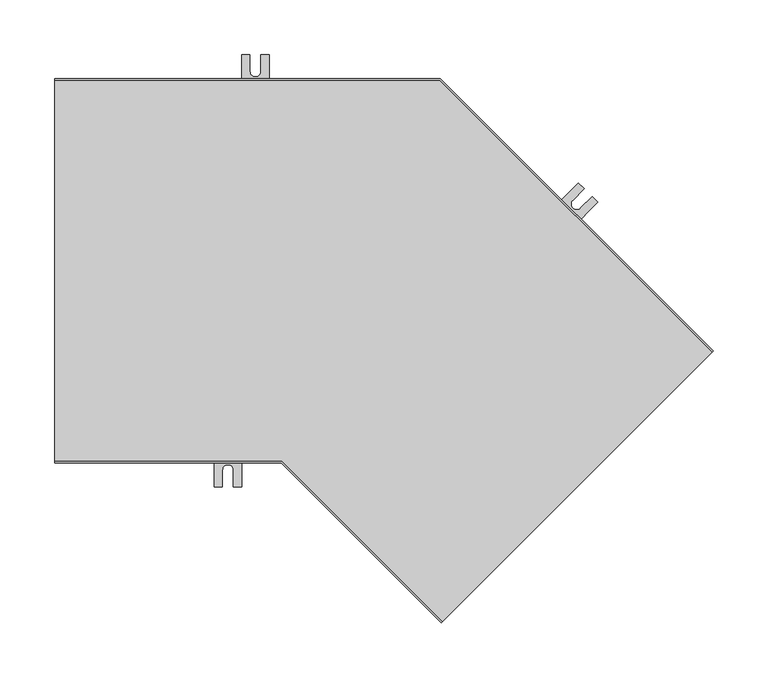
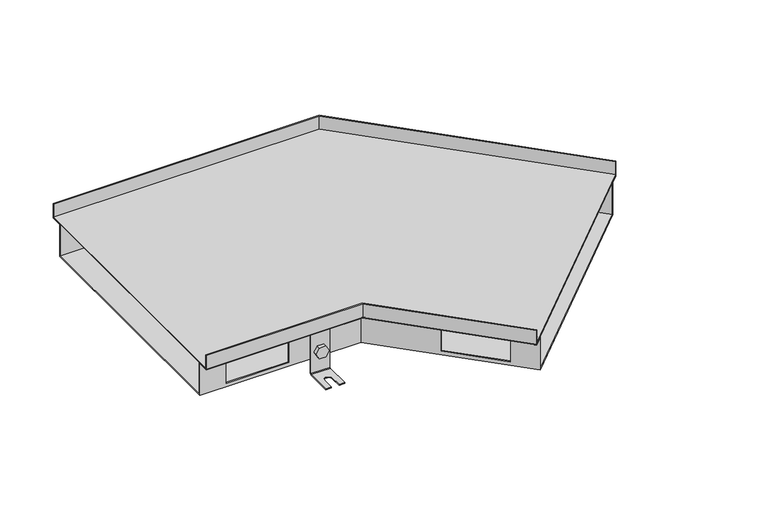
"""IFC4 building model written with IfcOpenShell, lengths in millimetres: proxy geometry, TECHNO_Угловой элемент_KVU : 350_065_135°."""

from ifc_helpers import new_model, si_unit, point, frame, frame_2d, origin, place, context, project, spatial, polyline, circle_curve, ellipse_curve, trimmed, segment, composite_curve, outline, extrude, source, transform, mapped, element, save
from ifc_brep_helpers import plane_surface, cylinder_surface, revolved_surface, advanced_brep


def mechanical_equipment_1f7193ec(model_context):
    return source(origin(), model_context, "Body", "SolidModel", [
        extrude(outline(composite_curve([segment(trimmed(circle_curve(frame_2d((0.0, -7.5000001)), 7.5), [point((0.0, -15.0))], [point((0.0, 0.0))], False, "CARTESIAN"), True, "CONTINUOUS"), segment(trimmed(circle_curve(frame_2d((0.0, -7.5000001)), 7.5), [point((0.0, 0.0))], [point((0.0, -15.0))], False, "CARTESIAN"), True, "CONTINUOUS")], self_intersect=False)), frame((424.1148412, -36.1420849, -55.5), z_axis=(0.7071067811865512, 0.7071067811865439, 0.0), x_axis=(0.0, 0.0, 1.0)), (0.0, 0.0, 1.0), 1.5),
        extrude(outline(polyline([(0.0, 0.0), (8.660254, 0.0), (12.9903811, -7.5), (8.6602541, -15.0), (0.0, -15.0), (-4.330127, -7.5), (0.0, 0.0)])), frame((408.2330432, -29.1698324, -55.5), z_axis=(0.7071067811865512, 0.7071067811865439, 0.0), x_axis=(0.35355339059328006, -0.3535533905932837, -0.866025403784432)), (0.0, 0.0, 1.0), 5.1),
        advanced_brep(
        [(426.8018469, -40.5261469, -20.5), (426.8018469, -40.5261469, -83.5), (426.2361615, -41.0918323, -84.3), (402.9016377, -64.4263561, -84.3), (402.9016377, -64.4263561, -85.5), (426.2361615, -41.0918323, -85.5), (427.6503751, -39.6776188, -83.5), (427.6503751, -39.6776188, -20.5), (409.1241774, -22.8484774, -20.5), (409.9727056, -21.9999492, -20.5), (409.9727056, -21.9999492, -83.5), (408.558492, -23.4141628, -85.5), (385.2239682, -46.7486866, -85.5), (385.2239682, -46.7486866, -84.3), (408.558492, -23.4141628, -84.3), (409.1241774, -22.8484774, -83.5), (390.5272691, -52.0519874, -84.3), (401.1338708, -41.4453857, -84.3), (408.2049386, -48.5164535, -84.3), (397.5983369, -59.1230553, -84.3), (397.5983369, -59.1230553, -85.5), (390.5272691, -52.0519874, -85.5), (408.2049386, -48.5164535, -85.5), (401.1338708, -41.4453857, -85.5)],
        [
            (0, 1),
            (1, 2, circle_curve(frame((426.2361615, -41.0918323, -83.5), z_axis=(-0.7071067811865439, 0.7071067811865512, 0.0), x_axis=(-0.7071067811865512, -0.7071067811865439, 0.0)), 0.8)),
            (2, 3),
            (3, 4),
            (4, 5),
            (5, 6, circle_curve(frame((426.2361615, -41.0918323, -83.5), z_axis=(0.7071067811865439, -0.7071067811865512, 0.0), x_axis=(-0.7071067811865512, -0.7071067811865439, 0.0)), 2.0)),
            (6, 7),
            (7, 0),
            (8, 9),
            (9, 10),
            (10, 11, circle_curve(frame((408.558492, -23.4141628, -83.5), z_axis=(-0.7071067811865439, 0.7071067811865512, 0.0), x_axis=(-0.7071067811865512, -0.7071067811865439, 0.0)), 2.0)),
            (11, 12),
            (12, 13),
            (13, 14),
            (14, 15, circle_curve(frame((408.558492, -23.4141628, -83.5), z_axis=(0.7071067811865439, -0.7071067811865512, 0.0), x_axis=(-0.7071067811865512, -0.7071067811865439, 0.0)), 0.8)),
            (15, 8),
            (0, 8),
            (15, 1),
            (14, 2),
            (13, 16),
            (16, 17),
            (17, 18, circle_curve(frame((404.6694047, -44.9809196, -84.3), z_axis=(0.0, 0.0, -1.0), x_axis=(0.7071067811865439, -0.7071067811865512, 0.0)), 5.0)),
            (18, 19),
            (19, 3),
            (19, 20),
            (20, 4),
            (12, 21),
            (21, 16),
            (20, 22),
            (22, 23, circle_curve(frame((404.6694047, -44.9809196, -85.5), z_axis=(0.0, 0.0, 1.0), x_axis=(0.7071067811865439, -0.7071067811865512, 0.0)), 5.0)),
            (23, 21),
            (11, 5),
            (10, 6),
            (9, 7),
            (23, 17),
            (18, 22),
        ],
        [
            plane_surface(frame((426.8018469, -40.5261469, -20.5), z_axis=(0.7071067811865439, -0.7071067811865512, 0.0), x_axis=(0.0, 0.0, -1.0))),
            plane_surface(frame((409.1241774, -22.8484774, -20.5), z_axis=(-0.7071067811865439, 0.7071067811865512, 0.0), x_axis=(0.0, 0.0, 1.0))),
            plane_surface(frame((426.8018469, -40.5261469, -20.5), z_axis=(-0.7071067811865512, -0.7071067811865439, 0.0), x_axis=(-0.7071067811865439, 0.7071067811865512, 0.0))),
            revolved_surface(polyline([(407.99280657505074, -23.979848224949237, -83.5), (425.67047607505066, -41.65751772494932, -83.5)]), (408.558492, -23.4141628, -83.5), (-0.7071067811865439, 0.7071067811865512, 0.0)),
            plane_surface(frame((426.2361615, -41.0918323, -84.3), z_axis=(0.0, 0.0, 1.0), x_axis=(-0.7071067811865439, 0.7071067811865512, 0.0))),
            plane_surface(frame((402.9016377, -64.4263561, -84.3), z_axis=(-0.7071067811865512, -0.7071067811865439, 0.0), x_axis=(-0.7071067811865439, 0.7071067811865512, 0.0))),
            plane_surface(frame((402.9016377, -64.4263561, -85.5), z_axis=(0.0, 0.0, -1.0), x_axis=(-0.7071067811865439, 0.7071067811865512, 0.0))),
            cylinder_surface(frame((408.558492, -23.4141628, -83.5), z_axis=(0.7071067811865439, -0.7071067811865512, 0.0), x_axis=(-0.7071067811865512, -0.7071067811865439, 0.0)), 2.0),
            plane_surface(frame((427.6503751, -39.6776188, -83.5), z_axis=(0.7071067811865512, 0.7071067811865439, 0.0), x_axis=(-0.7071067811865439, 0.7071067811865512, 0.0))),
            plane_surface(frame((427.6503751, -39.6776188, -20.5), z_axis=(0.0, 0.0, 1.0), x_axis=(-0.7071067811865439, 0.7071067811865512, 0.0))),
            plane_surface(frame((401.1338708, -41.4453857, -84.3), z_axis=(0.7071067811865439, -0.7071067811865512, 0.0), x_axis=(0.0, 0.0, -1.0))),
            plane_surface(frame((397.5983369, -59.1230553, -84.3), z_axis=(-0.707106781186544, 0.7071067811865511, 0.0), x_axis=(0.0, 0.0, -1.0))),
            revolved_surface(polyline([(408.2049386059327, -48.51645350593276, -84.3), (408.2049386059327, -48.51645350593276, -85.5)]), (404.6694047, -44.9809196, -85.5), (0.0, 0.0, 1.0)),
        ],
        [
            (0, [[1, 2, 3, 4, 5, 6, 7, 8]]),
            (1, [[9, 10, 11, 12, 13, 14, 15, 16]]),
            (2, [[-1, 17, -16, 18]]),
            (3, [[-2, -18, -15, 19]]),
            (4, [[-3, -19, -14, 20, 21, 22, 23, 24]]),
            (5, [[-4, -24, 25, 26]]),
            (5, [[-13, 27, 28, -20]]),
            (6, [[-5, -26, 29, 30, 31, -27, -12, 32]]),
            (7, [[-6, -32, -11, 33]]),
            (8, [[-7, -33, -10, 34]]),
            (9, [[-8, -34, -9, -17]]),
            (10, [[35, -21, -28, -31]]),
            (11, [[36, -29, -25, -23]]),
            (12, [[-35, -30, -36, -22]]),
        ],
    ),
        extrude(outline(composite_curve([segment(trimmed(circle_curve(frame_2d((0.0, -7.5000001)), 7.5), [point((0.0, -15.0))], [point((0.0, 0.0))], False, "CARTESIAN"), True, "CONTINUOUS"), segment(trimmed(circle_curve(frame_2d((0.0, -7.5000001)), 7.5), [point((0.0, 0.0))], [point((0.0, -15.0))], False, "CARTESIAN"), True, "CONTINUOUS")], self_intersect=False)), frame((454.3790114, 50.6906279, -55.5), z_axis=(0.7071067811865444, 0.7071067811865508, 0.0), x_axis=(0.0, 0.0, -1.0)), (0.0, 0.0, 1.0), 1.5),
        extrude(outline(polyline([(0.0, 0.0), (4.3301271, -7.4999999), (0.0, -15.0), (-8.660254, -15.0), (-12.990381, -7.5), (-8.660254, 1e-07), (0.0, 0.0)])), frame((467.7152249, 41.172791, -55.5), z_axis=(0.7071067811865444, 0.7071067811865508, 0.0), x_axis=(0.3535533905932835, -0.3535533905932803, 0.866025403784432)), (0.0, 0.0, 1.0), 5.1),
        advanced_brep(
        [(452.7526658, 56.1353501, -20.5), (452.7526658, 56.1353501, -83.5), (453.3183512, 56.7010355, -84.3), (476.652875, 80.0355593, -84.3), (476.652875, 80.0355593, -85.5), (453.3183512, 56.7010355, -85.5), (451.9041377, 55.2868219, -83.5), (451.9041377, 55.2868219, -20.5), (470.4303353, 38.4576806, -20.5), (469.5818072, 37.6091524, -20.5), (469.5818072, 37.6091524, -83.5), (470.9960208, 39.023366, -85.5), (494.3305445, 62.3578898, -85.5), (494.3305445, 62.3578898, -84.3), (470.9960208, 39.023366, -84.3), (470.4303353, 38.4576806, -83.5), (489.0272437, 67.6611906, -84.3), (478.420642, 57.0545889, -84.3), (471.3495742, 64.1256567, -84.3), (481.9561759, 74.7322584, -84.3), (481.9561759, 74.7322584, -85.5), (489.0272437, 67.6611906, -85.5), (471.3495742, 64.1256567, -85.5), (478.420642, 57.0545889, -85.5)],
        [
            (0, 1),
            (1, 2, circle_curve(frame((453.3183512, 56.7010355, -83.5), z_axis=(0.7071067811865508, -0.7071067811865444, 0.0), x_axis=(0.7071067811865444, 0.7071067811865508, 0.0)), 0.8)),
            (2, 3),
            (3, 4),
            (4, 5),
            (5, 6, circle_curve(frame((453.3183512, 56.7010355, -83.5), z_axis=(-0.7071067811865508, 0.7071067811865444, 0.0), x_axis=(0.7071067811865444, 0.7071067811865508, 0.0)), 2.0)),
            (6, 7),
            (7, 0),
            (8, 9),
            (9, 10),
            (10, 11, circle_curve(frame((470.9960208, 39.023366, -83.5), z_axis=(0.7071067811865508, -0.7071067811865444, 0.0), x_axis=(0.7071067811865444, 0.7071067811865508, 0.0)), 2.0)),
            (11, 12),
            (12, 13),
            (13, 14),
            (14, 15, circle_curve(frame((470.9960208, 39.023366, -83.5), z_axis=(-0.7071067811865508, 0.7071067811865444, 0.0), x_axis=(0.7071067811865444, 0.7071067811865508, 0.0)), 0.8)),
            (15, 8),
            (0, 8),
            (15, 1),
            (14, 2),
            (13, 16),
            (16, 17),
            (17, 18, circle_curve(frame((474.8851081, 60.5901228, -84.3), z_axis=(0.0, 0.0, -1.0), x_axis=(-0.7071067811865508, 0.7071067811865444, 0.0)), 5.0)),
            (18, 19),
            (19, 3),
            (19, 20),
            (20, 4),
            (12, 21),
            (21, 16),
            (20, 22),
            (22, 23, circle_curve(frame((474.8851081, 60.5901228, -85.5), z_axis=(0.0, 0.0, 1.0), x_axis=(-0.7071067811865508, 0.7071067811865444, 0.0)), 5.0)),
            (23, 21),
            (11, 5),
            (10, 6),
            (9, 7),
            (23, 17),
            (18, 22),
        ],
        [
            plane_surface(frame((452.7526658, 56.1353501, -20.5), z_axis=(-0.7071067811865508, 0.7071067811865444, 0.0), x_axis=(0.0, 0.0, -1.0))),
            plane_surface(frame((470.4303353, 38.4576806, -20.5), z_axis=(0.7071067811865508, -0.7071067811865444, 0.0), x_axis=(0.0, 0.0, 1.0))),
            plane_surface(frame((452.7526658, 56.1353501, -20.5), z_axis=(0.7071067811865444, 0.7071067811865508, 0.0), x_axis=(0.7071067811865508, -0.7071067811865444, 0.0))),
            revolved_surface(polyline([(471.5617062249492, 39.58905142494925, -83.5), (453.88403667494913, 57.266720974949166, -83.5)]), (470.9960208, 39.023366, -83.5), (0.7071067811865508, -0.7071067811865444, 0.0)),
            plane_surface(frame((453.3183512, 56.7010355, -84.3), z_axis=(0.0, 0.0, 1.0000000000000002), x_axis=(0.7071067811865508, -0.7071067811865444, 0.0))),
            plane_surface(frame((476.652875, 80.0355593, -84.3), z_axis=(0.7071067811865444, 0.7071067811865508, 0.0), x_axis=(0.7071067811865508, -0.7071067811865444, 0.0))),
            plane_surface(frame((476.652875, 80.0355593, -85.5), z_axis=(0.0, 0.0, -1.0000000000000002), x_axis=(0.7071067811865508, -0.7071067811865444, 0.0))),
            cylinder_surface(frame((470.9960208, 39.023366, -83.5), z_axis=(-0.7071067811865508, 0.7071067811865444, 0.0), x_axis=(0.7071067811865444, 0.7071067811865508, 0.0)), 2.0),
            plane_surface(frame((451.9041377, 55.2868219, -83.5), z_axis=(-0.7071067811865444, -0.7071067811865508, 0.0), x_axis=(0.7071067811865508, -0.7071067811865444, 0.0))),
            plane_surface(frame((451.9041377, 55.2868219, -20.5), z_axis=(0.0, 0.0, 1.0000000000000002), x_axis=(0.7071067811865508, -0.7071067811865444, 0.0))),
            plane_surface(frame((478.420642, 57.0545889, -84.3), z_axis=(-0.7071067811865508, 0.7071067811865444, 0.0), x_axis=(0.0, 0.0, -1.0))),
            plane_surface(frame((481.9561759, 74.7322584, -84.3), z_axis=(0.7071067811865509, -0.7071067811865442, 0.0), x_axis=(0.0, 0.0, -1.0))),
            revolved_surface(polyline([(471.34957419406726, 64.12565670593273, -84.3), (471.34957419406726, 64.12565670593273, -85.5)]), (474.8851081, 60.5901228, -85.5), (0.0, 0.0, 1.0)),
        ],
        [
            (0, [[1, 2, 3, 4, 5, 6, 7, 8]]),
            (1, [[9, 10, 11, 12, 13, 14, 15, 16]]),
            (2, [[-1, 17, -16, 18]]),
            (3, [[-2, -18, -15, 19]]),
            (4, [[-3, -19, -14, 20, 21, 22, 23, 24]]),
            (5, [[-4, -24, 25, 26]]),
            (5, [[-13, 27, 28, -20]]),
            (6, [[-5, -26, 29, 30, 31, -27, -12, 32]]),
            (7, [[-6, -32, -11, 33]]),
            (8, [[-7, -33, -10, 34]]),
            (9, [[-8, -34, -9, -17]]),
            (10, [[35, -21, -28, -31]]),
            (11, [[36, -29, -25, -23]]),
            (12, [[-35, -30, -36, -22]]),
        ],
    ),
        extrude(outline(composite_curve([segment(trimmed(circle_curve(frame_2d((-55.5, 182.5)), 7.5), [point((-55.5, 175.0))], [point((-55.5, 190.0))], False, "CARTESIAN"), True, "CONTINUOUS"), segment(trimmed(circle_curve(frame_2d((-55.5, 182.5)), 7.5), [point((-55.5, 190.0))], [point((-55.5, 175.0))], False, "CARTESIAN"), True, "CONTINUOUS")], self_intersect=False)), frame((0.0, 160.2, 0.0), z_axis=(0.0, 1.0, 0.0), x_axis=(0.0, 0.0, 1.0)), (0.0, 0.0, 1.0), 1.5),
        extrude(outline(polyline([(-55.5, 173.839746), (-63.0, 178.169873), (-63.0, 186.830127), (-55.5, 191.160254), (-48.0, 186.830127), (-48.0, 178.169873), (-55.5, 173.839746)])), frame((0.0, 162.9, 0.0), z_axis=(0.0, 1.0, 0.0), x_axis=(0.0, 0.0, 1.0)), (0.0, 0.0, 1.0), 5.1),
        advanced_brep(
        [(195.0, 162.9, -20.5), (195.0, 161.7, -20.5), (195.0, 161.7, -83.5), (195.0, 163.7, -85.5), (195.0, 196.7, -85.5), (195.0, 196.7, -84.3), (195.0, 163.7, -84.3), (195.0, 162.9, -83.5), (170.0, 162.9, -20.5), (170.0, 162.9, -83.5), (170.0, 163.7, -84.3), (170.0, 196.7, -84.3), (170.0, 196.7, -85.5), (170.0, 163.7, -85.5), (170.0, 161.7, -83.5), (170.0, 161.7, -20.5), (187.5, 196.7, -84.3), (187.5, 181.7, -84.3), (177.5, 181.7, -84.3), (177.5, 196.7, -84.3), (177.5, 196.7, -85.5), (187.5, 196.7, -85.5), (177.5, 181.7, -85.5), (187.5, 181.7, -85.5)],
        [
            (0, 1),
            (1, 2),
            (2, 3, circle_curve(frame((195.0, 163.7, -83.5), z_axis=(1.0, 0.0, 0.0), x_axis=(0.0, 1.0, 0.0)), 2.0)),
            (3, 4),
            (4, 5),
            (5, 6),
            (6, 7, circle_curve(frame((195.0, 163.7, -83.5), z_axis=(-1.0, 0.0, 0.0), x_axis=(0.0, 1.0, 0.0)), 0.8)),
            (7, 0),
            (8, 9),
            (9, 10, circle_curve(frame((170.0, 163.7, -83.5), z_axis=(1.0, 0.0, 0.0), x_axis=(0.0, 1.0, 0.0)), 0.8)),
            (10, 11),
            (11, 12),
            (12, 13),
            (13, 14, circle_curve(frame((170.0, 163.7, -83.5), z_axis=(-1.0, 0.0, 0.0), x_axis=(0.0, 1.0, 0.0)), 2.0)),
            (14, 15),
            (15, 8),
            (7, 9),
            (8, 0),
            (6, 10),
            (5, 16),
            (16, 17),
            (17, 18, circle_curve(frame((182.5, 181.7, -84.3), z_axis=(0.0, 0.0, -1.0), x_axis=(1.0, 0.0, 0.0)), 5.0)),
            (18, 19),
            (19, 11),
            (19, 20),
            (20, 12),
            (4, 21),
            (21, 16),
            (3, 13),
            (20, 22),
            (22, 23, circle_curve(frame((182.5, 181.7, -85.5), z_axis=(0.0, 0.0, 1.0), x_axis=(1.0, 0.0, 0.0)), 5.0)),
            (23, 21),
            (2, 14),
            (1, 15),
            (18, 22),
            (23, 17),
        ],
        [
            plane_surface(frame((195.0, 162.9, -20.5), z_axis=(1.0, 0.0, 0.0), x_axis=(0.0, 0.0, -1.0))),
            plane_surface(frame((170.0, 162.9, -20.5), z_axis=(-1.0, 0.0, 0.0), x_axis=(0.0, 0.0, 1.0))),
            plane_surface(frame((195.0, 162.9, -20.5), z_axis=(0.0, 1.0, 0.0), x_axis=(-1.0, 0.0, 0.0))),
            revolved_surface(polyline([(170.0, 164.5, -83.5), (195.0, 164.5, -83.5)]), (170.0, 163.7, -83.5), (-1.0, 0.0, 0.0)),
            plane_surface(frame((195.0, 163.7, -84.3), z_axis=(0.0, 0.0, 1.0), x_axis=(-1.0, 0.0, 0.0))),
            plane_surface(frame((195.0, 196.7, -84.3), z_axis=(0.0, 1.0, 0.0), x_axis=(-1.0, 0.0, 0.0))),
            plane_surface(frame((195.0, 196.7, -85.5), z_axis=(0.0, 0.0, -1.0), x_axis=(-1.0, 0.0, 0.0))),
            cylinder_surface(frame((170.0, 163.7, -83.5), z_axis=(1.0, 0.0, 0.0), x_axis=(0.0, 1.0, 0.0)), 2.0),
            plane_surface(frame((195.0, 161.7, -83.5), z_axis=(0.0, -1.0, 0.0), x_axis=(-1.0, 0.0, 0.0))),
            plane_surface(frame((195.0, 161.7, -20.5), z_axis=(0.0, 0.0, 1.0), x_axis=(-1.0, 0.0, 0.0))),
            plane_surface(frame((177.5, 181.7, -84.3), z_axis=(1.0, 0.0, 0.0), x_axis=(0.0, 0.0, -1.0))),
            plane_surface(frame((187.5, 196.7, -84.3), z_axis=(-1.0, 0.0, 0.0), x_axis=(0.0, 0.0, -1.0))),
            revolved_surface(polyline([(187.5, 181.7, -84.3), (187.5, 181.7, -85.5)]), (182.5, 181.7, -85.5), (0.0, 0.0, 1.0)),
        ],
        [
            (0, [[1, 2, 3, 4, 5, 6, 7, 8]]),
            (1, [[9, 10, 11, 12, 13, 14, 15, 16]]),
            (2, [[17, -9, 18, -8]]),
            (3, [[19, -10, -17, -7]]),
            (4, [[20, 21, 22, 23, 24, -11, -19, -6]]),
            (5, [[-24, 25, 26, -12]]),
            (5, [[27, 28, -20, -5]]),
            (6, [[29, -13, -26, 30, 31, 32, -27, -4]]),
            (7, [[33, -14, -29, -3]]),
            (8, [[34, -15, -33, -2]]),
            (9, [[-18, -16, -34, -1]]),
            (10, [[-30, -25, -23, 35]]),
            (11, [[-21, -28, -32, 36]]),
            (12, [[-22, -36, -31, -35]]),
        ],
    ),
        extrude(outline(composite_curve([segment(trimmed(circle_curve(frame_2d((-55.5, 157.5)), 7.5), [point((-55.5, 150.0))], [point((-55.5, 165.0))], False, "CARTESIAN"), True, "CONTINUOUS"), segment(trimmed(circle_curve(frame_2d((-55.5, 157.5)), 7.5), [point((-55.5, 165.0))], [point((-55.5, 150.0))], False, "CARTESIAN"), True, "CONTINUOUS")], self_intersect=False)), frame((0.0, -161.7, 0.0), z_axis=(0.0, 1.0, 0.0), x_axis=(0.0, 0.0, 1.0)), (0.0, 0.0, 1.0), 1.5),
        extrude(outline(polyline([(-55.5, 148.839746), (-63.0, 153.169873), (-63.0, 161.830127), (-55.5, 166.160254), (-48.0, 161.830127), (-48.0, 153.169873), (-55.5, 148.839746)])), frame((0.0, -168.0, 0.0), z_axis=(0.0, 1.0, 0.0), x_axis=(0.0, 0.0, 1.0)), (0.0, 0.0, 1.0), 5.1),
        advanced_brep(
        [(170.0, -162.9, -20.5), (170.0, -162.9, -83.5), (170.0, -163.7, -84.3), (170.0, -196.7, -84.3), (170.0, -196.7, -85.5), (170.0, -163.7, -85.5), (170.0, -161.7, -83.5), (170.0, -161.7, -20.5), (145.0, -162.9, -20.5), (145.0, -161.7, -20.5), (145.0, -161.7, -83.5), (145.0, -163.7, -85.5), (145.0, -196.7, -85.5), (145.0, -196.7, -84.3), (145.0, -163.7, -84.3), (145.0, -162.9, -83.5), (152.5, -196.7, -84.3), (152.5, -181.7, -84.3), (162.5, -181.7, -84.3), (162.5, -196.7, -84.3), (162.5, -196.7, -85.5), (152.5, -196.7, -85.5), (162.5, -181.7, -85.5), (152.5, -181.7, -85.5)],
        [
            (0, 1),
            (1, 2, circle_curve(frame((170.0, -163.7, -83.5), z_axis=(-1.0, 0.0, 0.0), x_axis=(0.0, -1.0, 0.0)), 0.8)),
            (2, 3),
            (3, 4),
            (4, 5),
            (5, 6, circle_curve(frame((170.0, -163.7, -83.5), z_axis=(1.0, 0.0, 0.0), x_axis=(0.0, -1.0, 0.0)), 2.0)),
            (6, 7),
            (7, 0),
            (8, 9),
            (9, 10),
            (10, 11, circle_curve(frame((145.0, -163.7, -83.5), z_axis=(-1.0, 0.0, 0.0), x_axis=(0.0, -1.0, 0.0)), 2.0)),
            (11, 12),
            (12, 13),
            (13, 14),
            (14, 15, circle_curve(frame((145.0, -163.7, -83.5), z_axis=(1.0, 0.0, 0.0), x_axis=(0.0, -1.0, 0.0)), 0.8)),
            (15, 8),
            (0, 8),
            (15, 1),
            (14, 2),
            (13, 16),
            (16, 17),
            (17, 18, circle_curve(frame((157.5, -181.7, -84.3), z_axis=(0.0, 0.0, -1.0), x_axis=(1.0, 0.0, 0.0)), 5.0)),
            (18, 19),
            (19, 3),
            (19, 20),
            (20, 4),
            (12, 21),
            (21, 16),
            (20, 22),
            (22, 23, circle_curve(frame((157.5, -181.7, -85.5), z_axis=(0.0, 0.0, 1.0), x_axis=(1.0, 0.0, 0.0)), 5.0)),
            (23, 21),
            (11, 5),
            (10, 6),
            (9, 7),
            (23, 17),
            (18, 22),
        ],
        [
            plane_surface(frame((170.0, -162.9, -20.5), z_axis=(1.0, 0.0, 0.0), x_axis=(0.0, 0.0, -1.0))),
            plane_surface(frame((145.0, -162.9, -20.5), z_axis=(-1.0, 0.0, 0.0), x_axis=(0.0, 0.0, 1.0))),
            plane_surface(frame((170.0, -162.9, -20.5), z_axis=(0.0, -1.0, 0.0), x_axis=(-1.0, 0.0, 0.0))),
            revolved_surface(polyline([(145.0, -164.5, -83.5), (170.0, -164.5, -83.5)]), (145.0, -163.7, -83.5), (-1.0, 0.0, 0.0)),
            plane_surface(frame((170.0, -163.7, -84.3), z_axis=(0.0, 0.0, 1.0), x_axis=(-1.0, 0.0, 0.0))),
            plane_surface(frame((170.0, -196.7, -84.3), z_axis=(0.0, -1.0, 0.0), x_axis=(-1.0, 0.0, 0.0))),
            plane_surface(frame((170.0, -196.7, -85.5), z_axis=(0.0, 0.0, -1.0), x_axis=(-1.0, 0.0, 0.0))),
            cylinder_surface(frame((145.0, -163.7, -83.5), z_axis=(1.0, 0.0, 0.0), x_axis=(0.0, -1.0, 0.0)), 2.0),
            plane_surface(frame((170.0, -161.7, -83.5), z_axis=(0.0, 1.0, 0.0), x_axis=(-1.0, 0.0, 0.0))),
            plane_surface(frame((170.0, -161.7, -20.5), z_axis=(0.0, 0.0, 1.0), x_axis=(-1.0, 0.0, 0.0))),
            plane_surface(frame((152.5, -181.7, -84.3), z_axis=(1.0, 0.0, 0.0), x_axis=(0.0, 0.0, -1.0))),
            plane_surface(frame((162.5, -196.7, -84.3), z_axis=(-1.0, 0.0, 0.0), x_axis=(0.0, 0.0, -1.0))),
            revolved_surface(polyline([(162.5, -181.7, -84.3), (162.5, -181.7, -85.5)]), (157.5, -181.7, -85.5), (0.0, 0.0, 1.0)),
        ],
        [
            (0, [[1, 2, 3, 4, 5, 6, 7, 8]]),
            (1, [[9, 10, 11, 12, 13, 14, 15, 16]]),
            (2, [[-1, 17, -16, 18]]),
            (3, [[-2, -18, -15, 19]]),
            (4, [[-3, -19, -14, 20, 21, 22, 23, 24]]),
            (5, [[-4, -24, 25, 26]]),
            (5, [[-13, 27, 28, -20]]),
            (6, [[-5, -26, 29, 30, 31, -27, -12, 32]]),
            (7, [[-6, -32, -11, 33]]),
            (8, [[-7, -33, -10, 34]]),
            (9, [[-8, -34, -9, -17]]),
            (10, [[35, -21, -28, -31]]),
            (11, [[36, -29, -25, -23]]),
            (12, [[-35, -30, -36, -22]]),
        ],
    ),
        extrude(outline(polyline([(598.3459521, -74.0430083), (352.5556349, -319.8333255), (206.5223094, -173.8), (0.0, -173.8), (0.0, 173.8), (350.5029437, 173.8), (598.3459521, -74.0430083)])), frame((0.0, 0.0, -19.3), z_axis=(0.0, 0.0, 1.0), x_axis=(1.0, 0.0, 0.0)), (0.0, 0.0, 1.0), 1.2),
        advanced_brep(
        [(351.7071068, -320.6818536, -19.3), (352.5556349, -319.8333255, -20.5), (362.1722871, -310.2166733, -20.5), (362.1722871, -310.2166733, -65.0), (588.7292998, -83.6596606, -65.0), (588.7292998, -83.6596606, -20.5), (598.3459521, -74.0430083, -20.5), (599.1944802, -73.1944802, -19.3), (599.1944802, -73.1944802, 0.0), (598.3459521, -74.0430083, 0.0), (598.3459521, -74.0430083, -19.3), (588.7292998, -83.6596606, -19.3), (587.8807717, -84.5081887, -20.5), (587.8807717, -84.5081887, -63.8), (363.0208153, -309.3681451, -63.8), (363.0208153, -309.3681451, -20.5), (362.1722871, -310.2166733, -19.3), (352.5556349, -319.8333255, -19.3), (352.5556349, -319.8333255, 0.0), (351.7071068, -320.6818536, 0.0), (0.0, -175.0, -19.3), (0.0, -175.0, 0.0), (0.0, -173.8, 0.0), (0.0, -173.8, -19.3), (0.0, -160.2, -19.3), (0.0, -159.0, -20.5), (0.0, -159.0, -63.8), (0.0, 159.0, -63.8), (0.0, 159.0, -20.5), (0.0, 160.2, -19.3), (0.0, 173.8, -19.3), (0.0, 173.8, 0.0), (0.0, 175.0, 0.0), (0.0, 175.0, -19.3), (0.0, 173.8, -20.5), (0.0, 160.2, -20.5), (0.0, 160.2, -65.0), (0.0, -160.2, -65.0), (0.0, -160.2, -20.5), (0.0, -173.8, -20.5), (206.5223094, -173.8, -20.5), (206.0252532, -175.0, -19.3), (206.5223094, -173.8, 0.0), (206.5223094, -173.8, -19.3), (212.1556139, -160.2, -65.0), (212.1556139, -160.2, -20.5), (35.0, -160.2, -28.0), (117.0, -160.2, -28.0), (117.0, -160.2, -60.0), (35.0, -160.2, -60.0), (212.6526702, -159.0, -20.5), (212.6526702, -159.0, -63.8), (117.0, -159.0, -28.0), (35.0, -159.0, -28.0), (35.0, -159.0, -60.0), (117.0, -159.0, -60.0), (212.1556139, -160.2, -19.3), (279.4407937, -227.4851799, -28.0), (337.4235498, -285.4679359, -28.0), (337.4235498, -285.4679359, -60.0), (279.4407937, -227.4851799, -60.0), (344.8696393, 160.2, -65.0), (344.372583, 159.0, -63.8), (338.2720779, -284.6194078, -28.0), (280.2893219, -226.6366517, -28.0), (280.2893219, -226.6366517, -60.0), (338.2720779, -284.6194078, -60.0), (206.0252532, -175.0, 0.0), (344.8696393, 160.2, -20.5), (563.9805625, -58.9109232, -28.0), (505.9978064, -0.9281672, -28.0), (505.9978064, -0.9281672, -60.0), (563.9805625, -58.9109232, -60.0), (350.5029437, 173.8, -20.5), (351.0, 175.0, -19.3), (351.0, 175.0, 0.0), (350.5029437, 173.8, 0.0), (350.5029437, 173.8, -19.3), (344.8696393, 160.2, -19.3), (344.372583, 159.0, -20.5), (505.1492783, -1.7766953, -28.0), (563.1320344, -59.7594514, -28.0), (563.1320344, -59.7594514, -60.0), (505.1492783, -1.7766953, -60.0), (117.0, 160.2, -28.0), (35.0, 160.2, -28.0), (35.0, 160.2, -60.0), (117.0, 160.2, -60.0), (35.0, 159.0, -28.0), (117.0, 159.0, -28.0), (117.0, 159.0, -60.0), (35.0, 159.0, -60.0)],
        [
            (0, 1, circle_curve(frame((352.5556349, -319.8333255, -19.3), z_axis=(0.707106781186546, -0.707106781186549, 0.0), x_axis=(-0.707106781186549, -0.707106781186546, 0.0)), 1.2)),
            (1, 2),
            (2, 3),
            (3, 4),
            (4, 5),
            (5, 6),
            (6, 7, circle_curve(frame((598.3459521, -74.0430083, -19.3), z_axis=(0.707106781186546, -0.707106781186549, 0.0), x_axis=(-0.707106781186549, -0.707106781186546, 0.0)), 1.2)),
            (7, 8),
            (8, 9),
            (9, 10),
            (10, 11),
            (11, 12, circle_curve(frame((588.7292998, -83.6596606, -20.5), z_axis=(0.707106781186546, -0.707106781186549, 0.0), x_axis=(-0.707106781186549, -0.707106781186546, 0.0)), 1.2)),
            (12, 13),
            (13, 14),
            (14, 15),
            (15, 16, circle_curve(frame((362.1722871, -310.2166733, -20.5), z_axis=(0.707106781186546, -0.707106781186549, 0.0), x_axis=(-0.707106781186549, -0.707106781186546, 0.0)), 1.2)),
            (16, 17),
            (17, 18),
            (18, 19),
            (19, 0),
            (20, 21),
            (21, 22),
            (22, 23),
            (23, 24),
            (24, 25, circle_curve(frame((0.0, -160.2, -20.5), z_axis=(-1.0, 0.0, 0.0), x_axis=(0.0, -1.0, 0.0)), 1.2)),
            (25, 26),
            (26, 27),
            (27, 28),
            (28, 29, circle_curve(frame((0.0, 160.2, -20.5), z_axis=(-1.0, 0.0, 0.0), x_axis=(0.0, -1.0, 0.0)), 1.2)),
            (29, 30),
            (30, 31),
            (31, 32),
            (32, 33),
            (33, 34, circle_curve(frame((0.0, 173.8, -19.3), z_axis=(-1.0, 0.0, 0.0), x_axis=(0.0, -1.0, 0.0)), 1.2)),
            (34, 35),
            (35, 36),
            (36, 37),
            (37, 38),
            (38, 39),
            (39, 20, circle_curve(frame((0.0, -173.8, -19.3), z_axis=(-1.0, 0.0, 0.0), x_axis=(0.0, -1.0, 0.0)), 1.2)),
            (39, 40),
            (40, 41, ellipse_curve(frame((206.5223094, -173.8, -19.3), z_axis=(-0.9238795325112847, 0.3826834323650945, 0.0), x_axis=(0.3826834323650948, 0.9238795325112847, 0.0)), 1.2988706, 1.2)),
            (41, 20),
            (22, 42),
            (42, 43),
            (43, 23),
            (37, 44),
            (44, 45),
            (45, 38),
            (46, 47),
            (47, 48),
            (48, 49),
            (49, 46),
            (25, 50),
            (50, 51),
            (51, 26),
            (52, 53),
            (53, 54),
            (54, 55),
            (55, 52),
            (24, 56),
            (56, 50, ellipse_curve(frame((212.1556139, -160.2, -20.5), z_axis=(-0.9238795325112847, 0.3826834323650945, 0.0), x_axis=(0.3826834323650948, 0.9238795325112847, 0.0)), 1.2988706, 1.2)),
            (0, 41),
            (40, 1),
            (45, 2),
            (44, 3),
            (57, 58),
            (58, 59),
            (59, 60),
            (60, 57),
            (36, 61),
            (61, 4),
            (13, 62),
            (62, 27),
            (51, 14),
            (50, 15),
            (63, 64),
            (64, 65),
            (65, 66),
            (66, 63),
            (56, 16),
            (43, 17),
            (42, 18),
            (21, 67),
            (67, 19),
            (61, 68),
            (68, 5),
            (69, 70),
            (70, 71),
            (71, 72),
            (72, 69),
            (68, 35),
            (34, 73),
            (73, 6),
            (73, 74, ellipse_curve(frame((350.5029437, 173.8, -19.3), z_axis=(0.9238795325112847, -0.3826834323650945, 0.0), x_axis=(-0.38268343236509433, -0.9238795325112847, 0.0)), 1.2988706, 1.2)),
            (74, 7),
            (74, 75),
            (75, 8),
            (75, 32),
            (31, 76),
            (76, 9),
            (76, 77),
            (77, 10),
            (77, 30),
            (29, 78),
            (78, 11),
            (78, 79, ellipse_curve(frame((344.8696393, 160.2, -20.5), z_axis=(0.9238795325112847, -0.3826834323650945, 0.0), x_axis=(-0.38268343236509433, -0.9238795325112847, 0.0)), 1.2988706, 1.2)),
            (79, 12),
            (79, 62),
            (80, 81),
            (81, 82),
            (82, 83),
            (83, 80),
            (84, 85),
            (85, 86),
            (86, 87),
            (87, 84),
            (33, 74),
            (28, 79),
            (88, 89),
            (89, 90),
            (90, 91),
            (91, 88),
            (41, 67),
            (46, 53),
            (52, 47),
            (88, 85),
            (84, 89),
            (49, 54),
            (91, 86),
            (48, 55),
            (90, 87),
            (57, 64),
            (63, 58),
            (80, 70),
            (69, 81),
            (66, 59),
            (72, 82),
            (65, 60),
            (71, 83),
        ],
        [
            plane_surface(frame((475.4507935, -196.9381669, 0.0), z_axis=(0.707106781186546, -0.707106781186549, 0.0), x_axis=(0.0, 0.0, 1.0))),
            plane_surface(frame((0.0, 0.0, 0.0), z_axis=(-1.0, 0.0, 0.0), x_axis=(0.0, 0.0, 1.0))),
            cylinder_surface(frame((278.5126266, -173.8, -19.3), z_axis=(1.0, 0.0, 0.0), x_axis=(0.0, -1.0, 0.0)), 1.2),
            plane_surface(frame((206.5223094, -173.8, -19.3), z_axis=(0.0, 1.0, 0.0), x_axis=(-1.0, 0.0, 0.0))),
            plane_surface(frame((212.1556139, -160.2, -20.5), z_axis=(0.0, -1.0, 0.0), x_axis=(-1.0, 0.0, 0.0))),
            plane_surface(frame((212.6526702, -159.0, -63.8), z_axis=(0.0, 1.0, 0.0), x_axis=(-1.0, 0.0, 0.0))),
            cylinder_surface(frame((278.5126266, -160.2, -20.5), z_axis=(1.0, 0.0, 0.0), x_axis=(0.0, -1.0, 0.0)), 1.2),
            cylinder_surface(frame((352.5556349, -319.8333255, -19.3), z_axis=(0.707106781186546, -0.707106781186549, 0.0), x_axis=(-0.707106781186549, -0.707106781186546, 0.0)), 1.2),
            plane_surface(frame((352.5556349, -319.8333255, -20.5), z_axis=(0.0, 0.0, -1.0), x_axis=(-0.7071067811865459, 0.7071067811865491, 0.0))),
            plane_surface(frame((362.1722871, -310.2166733, -20.5), z_axis=(-0.7071067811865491, -0.707106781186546, 0.0), x_axis=(-0.707106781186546, 0.7071067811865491, 0.0))),
            plane_surface(frame((362.1722871, -310.2166733, -65.0), z_axis=(0.0, 0.0, -1.0), x_axis=(-0.707106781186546, 0.7071067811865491, 0.0))),
            plane_surface(frame((587.8807717, -84.5081887, -63.8), z_axis=(0.0, 0.0, 1.0), x_axis=(-0.7071067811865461, 0.7071067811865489, 0.0))),
            plane_surface(frame((363.0208153, -309.3681451, -63.8), z_axis=(0.7071067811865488, 0.7071067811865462, 0.0), x_axis=(-0.7071067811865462, 0.7071067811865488, 0.0))),
            cylinder_surface(frame((362.1722871, -310.2166733, -20.5), z_axis=(0.707106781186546, -0.707106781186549, 0.0), x_axis=(-0.707106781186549, -0.707106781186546, 0.0)), 1.2),
            plane_surface(frame((362.1722871, -310.2166733, -19.3), z_axis=(0.0, 0.0, 1.0000000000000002), x_axis=(-0.7071067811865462, 0.7071067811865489, 0.0))),
            plane_surface(frame((352.5556349, -319.8333255, -19.3), z_axis=(0.7071067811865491, 0.707106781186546, 0.0), x_axis=(-0.707106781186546, 0.7071067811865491, 0.0))),
            plane_surface(frame((352.5556349, -319.8333255, 0.0), z_axis=(0.0, 0.0, 1.0), x_axis=(-0.707106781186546, 0.7071067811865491, 0.0))),
            plane_surface(frame((588.7292998, -83.6596606, -65.0), z_axis=(0.7071067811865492, 0.7071067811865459, 0.0), x_axis=(-0.7071067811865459, 0.7071067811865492, 0.0))),
            plane_surface(frame((588.7292998, -83.6596606, -20.5), z_axis=(0.0, 0.0, -1.0000000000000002), x_axis=(-0.7071067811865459, 0.7071067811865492, 0.0))),
            cylinder_surface(frame((598.3459521, -74.0430083, -19.3), z_axis=(0.707106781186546, -0.707106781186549, 0.0), x_axis=(-0.707106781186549, -0.707106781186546, 0.0)), 1.2),
            plane_surface(frame((599.1944802, -73.1944802, -19.3), z_axis=(0.7071067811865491, 0.707106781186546, 0.0), x_axis=(-0.707106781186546, 0.7071067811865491, 0.0))),
            plane_surface(frame((599.1944802, -73.1944802, 0.0), z_axis=(0.0, 0.0, 1.0000000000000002), x_axis=(-0.7071067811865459, 0.7071067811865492, 0.0))),
            plane_surface(frame((598.3459521, -74.0430083, 0.0), z_axis=(-0.7071067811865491, -0.707106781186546, 0.0), x_axis=(-0.707106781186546, 0.7071067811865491, 0.0))),
            plane_surface(frame((598.3459521, -74.0430083, -19.3), z_axis=(0.0, 0.0, 1.0000000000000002), x_axis=(-0.7071067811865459, 0.7071067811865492, 0.0))),
            cylinder_surface(frame((588.7292998, -83.6596606, -20.5), z_axis=(0.707106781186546, -0.707106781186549, 0.0), x_axis=(-0.707106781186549, -0.707106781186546, 0.0)), 1.2),
            plane_surface(frame((587.8807717, -84.5081887, -20.5), z_axis=(-0.7071067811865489, -0.7071067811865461, 0.0), x_axis=(-0.7071067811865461, 0.7071067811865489, 0.0))),
            plane_surface(frame((344.8696393, 160.2, -65.0), z_axis=(0.0, 1.0, 0.0), x_axis=(-1.0, 0.0, 0.0))),
            cylinder_surface(frame((278.5126266, 173.8, -19.3), z_axis=(1.0, 0.0, 0.0), x_axis=(0.0, -1.0, 0.0)), 1.2),
            plane_surface(frame((351.0, 175.0, -19.3), z_axis=(0.0, 1.0, 0.0), x_axis=(-1.0, 0.0, 0.0))),
            plane_surface(frame((350.5029437, 173.8, 0.0), z_axis=(0.0, -1.0, 0.0), x_axis=(-1.0, 0.0, 0.0))),
            cylinder_surface(frame((278.5126266, 160.2, -20.5), z_axis=(1.0, 0.0, 0.0), x_axis=(0.0, -1.0, 0.0)), 1.2),
            plane_surface(frame((344.372583, 159.0, -20.5), z_axis=(0.0, -1.0, 0.0), x_axis=(-1.0, 0.0, 0.0))),
            plane_surface(frame((206.0252532, -175.0, 0.0), z_axis=(0.0, -1.0, 0.0), x_axis=(-1.0, 0.0, 0.0))),
            plane_surface(frame((351.7071068, -320.6818536, 0.0), z_axis=(-0.707106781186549, -0.707106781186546, 0.0), x_axis=(-0.707106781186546, 0.707106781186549, 0.0))),
            plane_surface(frame((35.0, 175.0, -28.0), z_axis=(0.0, 0.0, -1.0), x_axis=(0.0, -1.0, 0.0))),
            plane_surface(frame((35.0, 175.0, -60.0), z_axis=(1.0, 0.0, 0.0), x_axis=(0.0, -1.0, 0.0))),
            plane_surface(frame((117.0, 175.0, -60.0), z_axis=(0.0, 0.0, 1.0), x_axis=(0.0, -1.0, 0.0))),
            plane_surface(frame((117.0, 175.0, -28.0), z_axis=(-1.0, 0.0, 0.0), x_axis=(0.0, -1.0, 0.0))),
            plane_surface(frame((516.4629868, 9.5370132, -28.0), z_axis=(0.0, 0.0, -1.0000000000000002), x_axis=(-0.7071067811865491, -0.7071067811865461, 0.0))),
            plane_surface(frame((574.4457429, -48.4457429, -28.0), z_axis=(-0.7071067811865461, 0.7071067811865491, 0.0), x_axis=(-0.7071067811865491, -0.7071067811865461, 0.0))),
            plane_surface(frame((574.4457429, -48.4457429, -60.0), z_axis=(0.0, 0.0, 1.0000000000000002), x_axis=(-0.7071067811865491, -0.7071067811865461, 0.0))),
            plane_surface(frame((516.4629868, 9.5370132, -60.0), z_axis=(0.7071067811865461, -0.7071067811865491, 0.0), x_axis=(-0.7071067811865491, -0.7071067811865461, 0.0))),
        ],
        [
            (0, [[1, 2, 3, 4, 5, 6, 7, 8, 9, 10, 11, 12, 13, 14, 15, 16, 17, 18, 19, 20]]),
            (1, [[21, 22, 23, 24, 25, 26, 27, 28, 29, 30, 31, 32, 33, 34, 35, 36, 37, 38, 39, 40]]),
            (2, [[-40, 41, 42, 43]]),
            (3, [[-23, 44, 45, 46]]),
            (4, [[-38, 47, 48, 49], [50, 51, 52, 53]]),
            (5, [[-26, 54, 55, 56], [57, 58, 59, 60]]),
            (6, [[-25, 61, 62, -54]]),
            (7, [[-1, 63, -42, 64]]),
            (8, [[-2, -64, -41, -39, -49, 65]]),
            (9, [[-3, -65, -48, 66], [67, 68, 69, 70]]),
            (10, [[-4, -66, -47, -37, 71, 72]]),
            (11, [[-14, 73, 74, -27, -56, 75]]),
            (12, [[-15, -75, -55, 76], [77, 78, 79, 80]]),
            (13, [[-16, -76, -62, 81]]),
            (14, [[-17, -81, -61, -24, -46, 82]]),
            (15, [[-18, -82, -45, 83]]),
            (16, [[-19, -83, -44, -22, 84, 85]]),
            (17, [[-5, -72, 86, 87], [88, 89, 90, 91]]),
            (18, [[-6, -87, 92, -35, 93, 94]]),
            (19, [[-7, -94, 95, 96]]),
            (20, [[-8, -96, 97, 98]]),
            (21, [[-9, -98, 99, -32, 100, 101]]),
            (22, [[-10, -101, 102, 103]]),
            (23, [[-11, -103, 104, -30, 105, 106]]),
            (24, [[-12, -106, 107, 108]]),
            (25, [[-13, -108, 109, -73], [110, 111, 112, 113]]),
            (26, [[-36, -92, -86, -71], [114, 115, 116, 117]]),
            (27, [[-34, 118, -95, -93]]),
            (28, [[-33, -99, -97, -118]]),
            (29, [[-31, -104, -102, -100]]),
            (30, [[-29, 119, -107, -105]]),
            (31, [[-28, -74, -109, -119], [120, 121, 122, 123]]),
            (32, [[-21, -43, 124, -84]]),
            (33, [[-20, -85, -124, -63]]),
            (34, [[125, -57, 126, -50]]),
            (34, [[127, -114, 128, -120]]),
            (35, [[-125, -53, 129, -58]]),
            (35, [[-127, -123, 130, -115]]),
            (36, [[-129, -52, 131, -59]]),
            (36, [[-130, -122, 132, -116]]),
            (37, [[-131, -51, -126, -60]]),
            (37, [[-132, -121, -128, -117]]),
            (38, [[133, -77, 134, -67]]),
            (38, [[135, -88, 136, -110]]),
            (39, [[-134, -80, 137, -68]]),
            (39, [[-136, -91, 138, -111]]),
            (40, [[-137, -79, 139, -69]]),
            (40, [[-138, -90, 140, -112]]),
            (41, [[-133, -70, -139, -78]]),
            (41, [[-135, -113, -140, -89]]),
        ],
    ),
    ])


if __name__ == "__main__":
    model = new_model("IFC4")
    model_context = context("Model", 3, world=origin())
    ifc_project = project(units=[si_unit("LENGTHUNIT", "METRE", prefix="MILLI")], contexts=[model_context])
    site = spatial("IfcSite", under=ifc_project)
    building = spatial("IfcBuilding", under=site)
    placement = place(None, origin())
    mechanical_equipment_shape = mechanical_equipment_1f7193ec(model_context)
    element("IfcBuildingElementProxy", 1, Name="TECHNO_Угловой элемент_KVU : 350_065_135°", ObjectType="TECHNO_Угловой элемент_KVU : 350_065_135°", at=placement, inside=building, context=model_context, shape_type="MappedRepresentation", body=[
        mapped(mechanical_equipment_shape, transform((0.0, 0.0, 0.0), x_axis=(1.0, 0.0, 0.0), y_axis=(0.0, 1.0, 0.0), z_axis=(0.0, 0.0, 1.0))),
    ])
    save(model, "model.ifc")
